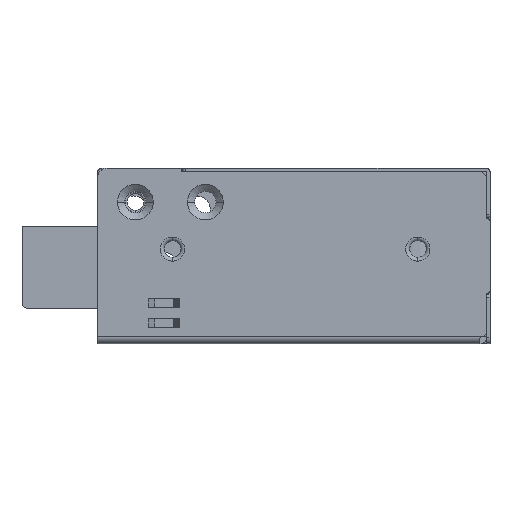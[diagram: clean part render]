
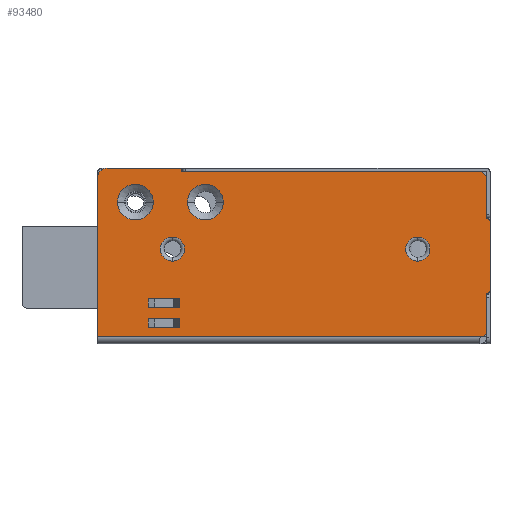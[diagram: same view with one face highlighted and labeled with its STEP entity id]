
A CAD part, front view. The second image highlights one B-rep face of the part: STEP entity #93480.
In plain terms, the highlighted planar face has unit normal (0, -1, 0).
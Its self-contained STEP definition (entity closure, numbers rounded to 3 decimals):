
#56120=CARTESIAN_POINT('',(77.41,44.812,-27.9));
#56130=VERTEX_POINT('',#56120);
#62210=CARTESIAN_POINT('',(28.41,44.812,-15.825));
#62220=VERTEX_POINT('',#62210);
#62310=CARTESIAN_POINT('',(28.41,44.812,-11.975));
#62320=VERTEX_POINT('',#62310);
#62350=CARTESIAN_POINT('',(28.41,44.812,-13.9));
#62360=DIRECTION('',(0.,-1.,0.));
#62370=DIRECTION('',(0.,0.,1.));
#62380=AXIS2_PLACEMENT_3D('',#62350,#62360,#62370);
#62390=CIRCLE('',#62380,1.925);
#62400=EDGE_CURVE('',#62220,#62320,#62390,.T.);
#62860=CARTESIAN_POINT('',(25.36,44.812,-6.41)
);
#62870=VERTEX_POINT('',#62860);
#62900=CARTESIAN_POINT('',(22.51,44.812,-6.41)
);
#62910=DIRECTION('',(0.,1.,0.));
#62920=DIRECTION('',(-1.,0.,0.));
#62930=AXIS2_PLACEMENT_3D('',#62900,#62910,#62920);
#62940=CIRCLE('',#62930,2.85);
#62950=CARTESIAN_POINT('',(19.66,44.812,-6.41)
);
#62960=VERTEX_POINT('',#62950);
#62970=EDGE_CURVE('',#62870,#62960,#62940,.T.);
#63180=CARTESIAN_POINT('',(29.56,44.812,-21.8)
);
#63190=VERTEX_POINT('',#63180);
#63270=CARTESIAN_POINT('',(24.56,44.812,-21.8)
);
#63280=VERTEX_POINT('',#63270);
#63310=CARTESIAN_POINT('',(-25.048,44.812,-21.8));
#63320=DIRECTION('',(1.,0.,0.));
#63330=VECTOR('',#63320,1.);
#63340=LINE('',#63310,#63330);
#63350=EDGE_CURVE('',#63280,#63190,#63340,.T.);
#63490=CARTESIAN_POINT('',(24.56,44.812,-26.38)
);
#63500=VERTEX_POINT('',#63490);
#63580=CARTESIAN_POINT('',(29.56,44.812,-26.38)
);
#63590=VERTEX_POINT('',#63580);
#63620=CARTESIAN_POINT('',(-25.048,44.812,-26.38));
#63630=DIRECTION('',(-1.,0.,0.));
#63640=VECTOR('',#63630,1.);
#63650=LINE('',#63620,#63640);
#63660=EDGE_CURVE('',#63590,#63500,#63650,.T.);
#63800=CARTESIAN_POINT('',(29.56,44.812,-24.98)
);
#63810=VERTEX_POINT('',#63800);
#63890=CARTESIAN_POINT('',(24.56,44.812,-24.98)
);
#63900=VERTEX_POINT('',#63890);
#63930=CARTESIAN_POINT('',(-25.048,44.812,-24.98));
#63940=DIRECTION('',(1.,0.,0.));
#63950=VECTOR('',#63940,1.);
#63960=LINE('',#63930,#63950);
#63970=EDGE_CURVE('',#63900,#63810,#63960,.T.);
#64110=CARTESIAN_POINT('',(24.56,44.812,-23.2)
);
#64120=VERTEX_POINT('',#64110);
#64200=CARTESIAN_POINT('',(29.56,44.812,-23.2)
);
#64210=VERTEX_POINT('',#64200);
#64240=CARTESIAN_POINT('',(-25.048,44.812,-23.2));
#64250=DIRECTION('',(-1.,0.,0.));
#64260=VECTOR('',#64250,1.);
#64270=LINE('',#64240,#64260);
#64280=EDGE_CURVE('',#64210,#64120,#64270,.T.);
#65650=CARTESIAN_POINT('',(24.56,44.812,-9.564));
#65660=DIRECTION('',(0.,0.,-1.));
#65670=VECTOR('',#65660,1.);
#65680=LINE('',#65650,#65670);
#65690=EDGE_CURVE('',#63900,#63500,#65680,.T.);
#66090=CARTESIAN_POINT('',(29.56,44.812,-9.564));
#66100=DIRECTION('',(0.,0.,1.));
#66110=VECTOR('',#66100,1.);
#66120=LINE('',#66090,#66110);
#66130=EDGE_CURVE('',#63590,#63810,#66120,.T.);
#68160=CARTESIAN_POINT('',(29.56,44.812,-9.564));
#68170=DIRECTION('',(0.,0.,1.));
#68180=VECTOR('',#68170,1.);
#68190=LINE('',#68160,#68180);
#68200=EDGE_CURVE('',#64210,#63190,#68190,.T.);
#68490=CARTESIAN_POINT('',(24.56,44.812,-9.564));
#68500=DIRECTION('',(0.,0.,-1.));
#68510=VECTOR('',#68500,1.);
#68520=LINE('',#68490,#68510);
#68530=EDGE_CURVE('',#63280,#64120,#68520,.T.);
#68720=CARTESIAN_POINT('',(36.51,44.812,-6.41)
);
#68730=VERTEX_POINT('',#68720);
#68760=CARTESIAN_POINT('',(33.66,44.812,-6.41)
);
#68770=DIRECTION('',(0.,1.,0.));
#68780=DIRECTION('',(-1.,0.,0.));
#68790=AXIS2_PLACEMENT_3D('',#68760,#68770,#68780);
#68800=CIRCLE('',#68790,2.85);
#68810=CARTESIAN_POINT('',(30.81,44.812,-6.41)
);
#68820=VERTEX_POINT('',#68810);
#68830=EDGE_CURVE('',#68730,#68820,#68800,.T.);
#88730=EDGE_CURVE('',#68820,#68730,#68800,.T.);
#90820=EDGE_CURVE('',#62960,#62870,#62940,.T.);
#91690=EDGE_CURVE('',#62320,#62220,#62390,.T.);
#91870=CARTESIAN_POINT('',(60.096,44.812,-77.942)
);
#91880=DIRECTION('',(-0.,-1.,-0.));
#91890=DIRECTION('',(-1.,0.,0.));
#91900=AXIS2_PLACEMENT_3D('',#91870,#91880,#91890);
#91910=PLANE('',#91900);
#91920=ORIENTED_EDGE('',*,*,#90820,.T.);
#91930=ORIENTED_EDGE('',*,*,#62970,.T.);
#91940=EDGE_LOOP('',(#91930,#91920));
#91950=FACE_BOUND('',#91940,.T.);
#91960=ORIENTED_EDGE('',*,*,#63660,.T.);
#91970=ORIENTED_EDGE('',*,*,#66130,.F.);
#91980=ORIENTED_EDGE('',*,*,#63970,.T.);
#91990=ORIENTED_EDGE('',*,*,#65690,.F.);
#92000=EDGE_LOOP('',(#91990,#91980,#91970,#91960));
#92010=FACE_BOUND('',#92000,.T.);
#92020=ORIENTED_EDGE('',*,*,#63350,.T.);
#92030=ORIENTED_EDGE('',*,*,#68530,.F.);
#92040=ORIENTED_EDGE('',*,*,#64280,.T.);
#92050=ORIENTED_EDGE('',*,*,#68200,.F.);
#92060=EDGE_LOOP('',(#92050,#92040,#92030,#92020));
#92070=FACE_BOUND('',#92060,.T.);
#92080=ORIENTED_EDGE('',*,*,#88730,.T.);
#92090=ORIENTED_EDGE('',*,*,#68830,.T.);
#92100=EDGE_LOOP('',(#92090,#92080));
#92110=FACE_BOUND('',#92100,.T.);
#92120=CARTESIAN_POINT('',(67.51,44.812,-13.9));
#92130=DIRECTION('',(0.,-1.,0.));
#92140=DIRECTION('',(0.,0.,1.));
#92150=AXIS2_PLACEMENT_3D('',#92120,#92130,#92140);
#92160=CIRCLE('',#92150,1.925);
#92170=CARTESIAN_POINT('',(67.51,44.812,-11.975));
#92180=VERTEX_POINT('',#92170);
#92190=CARTESIAN_POINT('',(67.51,44.812,-15.825));
#92200=VERTEX_POINT('',#92190);
#92210=EDGE_CURVE('',#92180,#92200,#92160,.T.);
#92220=ORIENTED_EDGE('',*,*,#92210,.F.);
#92230=EDGE_CURVE('',#92200,#92180,#92160,.T.);
#92240=ORIENTED_EDGE('',*,*,#92230,.F.);
#92250=EDGE_LOOP('',(#92240,#92220));
#92260=FACE_BOUND('',#92250,.T.);
#92270=ORIENTED_EDGE('',*,*,#91690,.F.);
#92280=ORIENTED_EDGE('',*,*,#62400,.F.);
#92290=EDGE_LOOP('',(#92280,#92270));
#92300=FACE_BOUND('',#92290,.T.);
#92310=CARTESIAN_POINT('',(18.01,44.812,-2.5));
#92320=DIRECTION('',(0.,-1.,0.));
#92330=DIRECTION('',(1.,0.,0.));
#92340=AXIS2_PLACEMENT_3D('',#92310,#92320,#92330);
#92350=CIRCLE('',#92340,1.5);
#92360=CARTESIAN_POINT('',(18.01,44.812,-1.));
#92370=VERTEX_POINT('',#92360);
#92380=CARTESIAN_POINT('',(16.51,44.812,-2.5));
#92390=VERTEX_POINT('',#92380);
#92400=EDGE_CURVE('',#92370,#92390,#92350,.T.);
#92410=ORIENTED_EDGE('',*,*,#92400,.T.);
#92420=CARTESIAN_POINT('',(0.,44.812,-1.));
#92430=DIRECTION('',(1.,0.,0.));
#92440=VECTOR('',#92430,1.);
#92450=LINE('',#92420,#92440);
#92460=CARTESIAN_POINT('',(29.91,44.812,-1.));
#92470=VERTEX_POINT('',#92460);
#92480=EDGE_CURVE('',#92370,#92470,#92450,.T.);
#92490=ORIENTED_EDGE('',*,*,#92480,.F.);
#92500=CARTESIAN_POINT('',(29.91,44.812,0.));
#92510=DIRECTION('',(0.,0.,-1.));
#92520=VECTOR('',#92510,1.);
#92530=LINE('',#92500,#92520);
#92540=CARTESIAN_POINT('',(29.91,44.812,-1.5));
#92550=VERTEX_POINT('',#92540);
#92560=EDGE_CURVE('',#92470,#92550,#92530,.T.);
#92570=ORIENTED_EDGE('',*,*,#92560,.F.);
#92580=CARTESIAN_POINT('',(0.,44.812,-1.5));
#92590=DIRECTION('',(1.,0.,0.));
#92600=VECTOR('',#92590,1.);
#92610=LINE('',#92580,#92600);
#92620=CARTESIAN_POINT('',(77.01,44.812,-1.5));
#92630=VERTEX_POINT('',#92620);
#92640=EDGE_CURVE('',#92550,#92630,#92610,.T.);
#92650=ORIENTED_EDGE('',*,*,#92640,.F.);
#92660=CARTESIAN_POINT('',(77.01,44.812,-3.));
#92670=DIRECTION('',(0.,-1.,0.));
#92680=DIRECTION('',(1.,0.,0.));
#92690=AXIS2_PLACEMENT_3D('',#92660,#92670,#92680);
#92700=CIRCLE('',#92690,1.5);
#92710=CARTESIAN_POINT('',(78.51,44.812,-3.));
#92720=VERTEX_POINT('',#92710);
#92730=EDGE_CURVE('',#92720,#92630,#92700,.T.);
#92740=ORIENTED_EDGE('',*,*,#92730,.T.);
#92750=CARTESIAN_POINT('',(78.51,44.812,-28.));
#92760=DIRECTION('',(0.,0.,-1.));
#92770=VECTOR('',#92760,1.);
#92780=LINE('',#92750,#92770);
#92790=CARTESIAN_POINT('',(78.51,44.812,-9.));
#92800=VERTEX_POINT('',#92790);
#92810=EDGE_CURVE('',#92720,#92800,#92780,.T.);
#92820=ORIENTED_EDGE('',*,*,#92810,.F.);
#92830=CARTESIAN_POINT('',(78.51,44.812,-9.5));
#92840=DIRECTION('',(0.,-1.,0.));
#92850=DIRECTION('',(-1.,0.,0.));
#92860=AXIS2_PLACEMENT_3D('',#92830,#92840,#92850);
#92870=CIRCLE('',#92860,0.5);
#92880=CARTESIAN_POINT('',(79.01,44.812,-9.5));
#92890=VERTEX_POINT('',#92880);
#92900=EDGE_CURVE('',#92890,#92800,#92870,.T.);
#92910=ORIENTED_EDGE('',*,*,#92900,.T.);
#92920=CARTESIAN_POINT('',(79.01,44.812,-28.));
#92930=DIRECTION('',(0.,0.,-1.));
#92940=VECTOR('',#92930,1.);
#92950=LINE('',#92920,#92940);
#92960=CARTESIAN_POINT('',(79.01,44.812,-20.5));
#92970=VERTEX_POINT('',#92960);
#92980=EDGE_CURVE('',#92890,#92970,#92950,.T.);
#92990=ORIENTED_EDGE('',*,*,#92980,.F.);
#93000=CARTESIAN_POINT('',(78.51,44.812,-20.5));
#93010=DIRECTION('',(0.,1.,0.));
#93020=DIRECTION('',(1.,0.,0.));
#93030=AXIS2_PLACEMENT_3D('',#93000,#93010,#93020);
#93040=CIRCLE('',#93030,0.5);
#93050=CARTESIAN_POINT('',(78.51,44.812,-21.));
#93060=VERTEX_POINT('',#93050);
#93070=EDGE_CURVE('',#92970,#93060,#93040,.T.);
#93080=ORIENTED_EDGE('',*,*,#93070,.F.);
#93090=CARTESIAN_POINT('',(78.51,44.812,-28.));
#93100=DIRECTION('',(0.,0.,-1.));
#93110=VECTOR('',#93100,1.);
#93120=LINE('',#93090,#93110);
#93130=CARTESIAN_POINT('',(78.51,44.812,-26.9));
#93140=VERTEX_POINT('',#93130);
#93150=EDGE_CURVE('',#93060,#93140,#93120,.T.);
#93160=ORIENTED_EDGE('',*,*,#93150,.F.);
#93170=CARTESIAN_POINT('',(77.51,44.812,-26.9));
#93180=DIRECTION('',(0.,-1.,0.));
#93190=DIRECTION('',(1.,0.,0.));
#93200=AXIS2_PLACEMENT_3D('',#93170,#93180,#93190);
#93210=CIRCLE('',#93200,1.);
#93220=CARTESIAN_POINT('',(77.51,44.812,-27.9));
#93230=VERTEX_POINT('',#93220);
#93240=EDGE_CURVE('',#93230,#93140,#93210,.T.);
#93250=ORIENTED_EDGE('',*,*,#93240,.T.);
#93260=CARTESIAN_POINT('',(40.096,44.812,-27.9));
#93270=DIRECTION('',(-1.,0.,0.));
#93280=VECTOR('',#93270,1.);
#93290=LINE('',#93260,#93280);
#93300=EDGE_CURVE('',#93230,#56130,#93290,.T.);
#93310=ORIENTED_EDGE('',*,*,#93300,.F.);
#93320=CARTESIAN_POINT('',(60.096,44.812,-27.9));
#93330=DIRECTION('',(1.,0.,0.));
#93340=VECTOR('',#93330,1.);
#93350=LINE('',#93320,#93340);
#93360=CARTESIAN_POINT('',(16.51,44.812,-27.9));
#93370=VERTEX_POINT('',#93360);
#93380=EDGE_CURVE('',#93370,#56130,#93350,.T.);
#93390=ORIENTED_EDGE('',*,*,#93380,.T.);
#93400=CARTESIAN_POINT('',(16.51,44.812,0.));
#93410=DIRECTION('',(0.,0.,1.));
#93420=VECTOR('',#93410,1.);
#93430=LINE('',#93400,#93420);
#93440=EDGE_CURVE('',#93370,#92390,#93430,.T.);
#93450=ORIENTED_EDGE('',*,*,#93440,.F.);
#93460=EDGE_LOOP('',(#93450,#93390,#93310,#93250,#93160,#93080,#92990,
#92910,#92820,#92740,#92650,#92570,#92490,#92410));
#93470=FACE_OUTER_BOUND('',#93460,.T.);
#93480=ADVANCED_FACE('',(#91950,#92010,#92070,#92110,#92260,#92300,
#93470),#91910,.T.);
